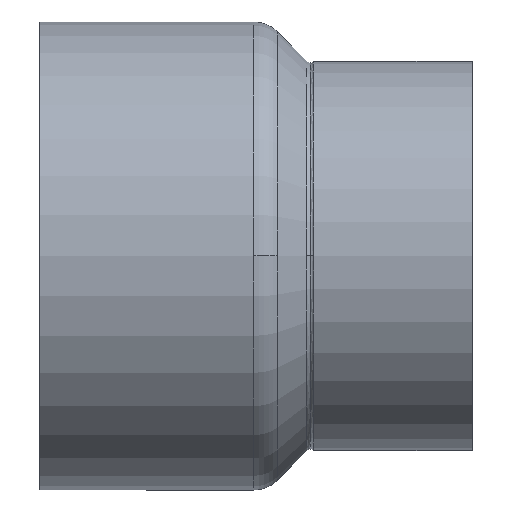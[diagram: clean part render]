
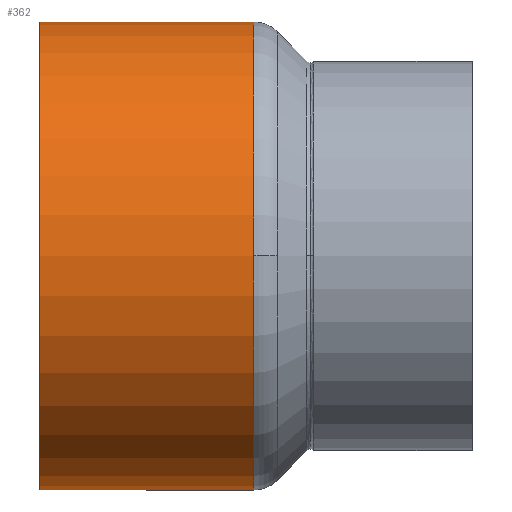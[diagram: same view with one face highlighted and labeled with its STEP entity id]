
A CAD part, top view. The second image highlights one B-rep face of the part: STEP entity #362.
In plain terms, the highlighted cylindrical face has radius 56.3 mm (diameter 112.6 mm), a partial arc.
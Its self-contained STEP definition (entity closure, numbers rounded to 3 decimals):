
#312=CARTESIAN_POINT('',(25.746,0.0,0.0));
#313=DIRECTION('',(1.0,0.0,0.0));
#314=DIRECTION('',(0.0,1.0,0.0));
#315=AXIS2_PLACEMENT_3D('',#312,#313,#314);
#316=CYLINDRICAL_SURFACE('',#315,56.3);
#317=CARTESIAN_POINT('',(0.,56.3,0.0));
#318=VERTEX_POINT('',#317);
#319=CARTESIAN_POINT('',(51.493,56.3,0.0));
#320=VERTEX_POINT('',#319);
#321=CARTESIAN_POINT('',(0.,56.3,0.0));
#322=DIRECTION('',(1.0,0.0,0.0));
#323=VECTOR('',#322,51.493);
#324=LINE('',#321,#323);
#325=EDGE_CURVE('',#318,#320,#324,.T.);
#326=ORIENTED_EDGE('',*,*,#325,.F.);
#327=CARTESIAN_POINT('',(0.,-56.3,0.));
#328=VERTEX_POINT('',#327);
#329=CARTESIAN_POINT('',(0.,0.0,0.0));
#330=DIRECTION('',(1.0,0.0,0.0));
#331=DIRECTION('',(0.0,1.0,0.0));
#332=AXIS2_PLACEMENT_3D('',#329,#330,#331);
#333=CIRCLE('',#332,56.3);
#334=EDGE_CURVE('',#318,#328,#333,.T.);
#335=ORIENTED_EDGE('',*,*,#334,.T.);
#336=CARTESIAN_POINT('',(51.493,-56.3,0.));
#337=VERTEX_POINT('',#336);
#338=CARTESIAN_POINT('',(51.493,-56.3,0.));
#339=DIRECTION('',(-1.0,0.0,0.0));
#340=VECTOR('',#339,51.493);
#341=LINE('',#338,#340);
#342=EDGE_CURVE('',#337,#328,#341,.T.);
#343=ORIENTED_EDGE('',*,*,#342,.F.);
#344=CARTESIAN_POINT('',(51.493,0.,56.3));
#345=VERTEX_POINT('',#344);
#346=CARTESIAN_POINT('',(51.493,0.0,0.0));
#347=DIRECTION('',(1.0,0.0,0.0));
#348=DIRECTION('',(0.0,1.0,0.0));
#349=AXIS2_PLACEMENT_3D('',#346,#347,#348);
#350=CIRCLE('',#349,56.3);
#351=EDGE_CURVE('',#345,#337,#350,.T.);
#352=ORIENTED_EDGE('',*,*,#351,.F.);
#353=CARTESIAN_POINT('',(51.493,0.0,0.0));
#354=DIRECTION('',(1.0,0.0,0.0));
#355=DIRECTION('',(0.0,1.0,0.0));
#356=AXIS2_PLACEMENT_3D('',#353,#354,#355);
#357=CIRCLE('',#356,56.3);
#358=EDGE_CURVE('',#320,#345,#357,.T.);
#359=ORIENTED_EDGE('',*,*,#358,.F.);
#360=EDGE_LOOP('',(#326,#335,#343,#352,#359));
#361=FACE_OUTER_BOUND('',#360,.T.);
#362=ADVANCED_FACE('',(#361),#316,.T.);
